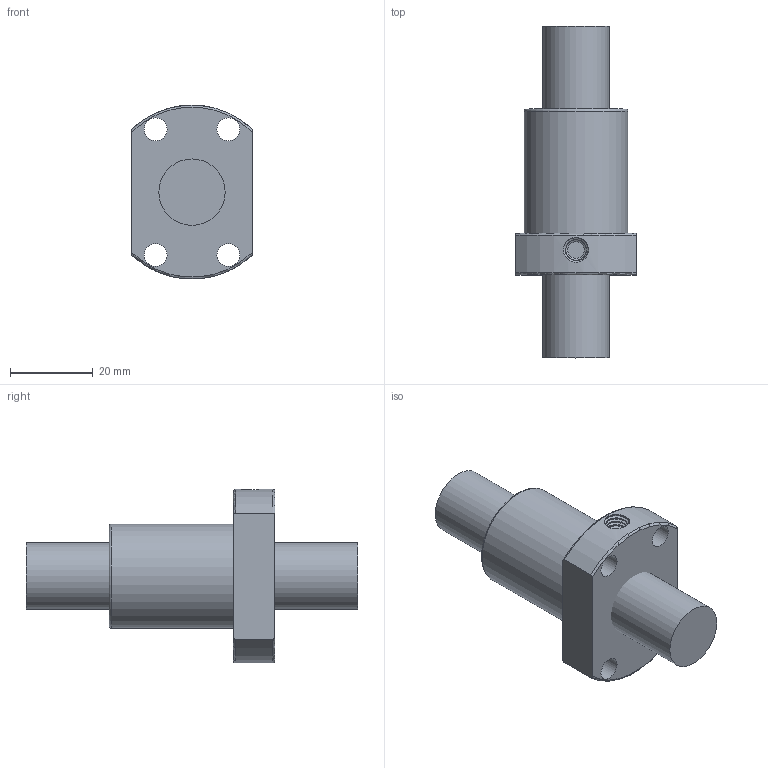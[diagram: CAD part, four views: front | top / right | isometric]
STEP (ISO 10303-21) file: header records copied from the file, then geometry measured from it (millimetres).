
FILE_DESCRIPTION(/* description */ (''),/* implementation_level */ '2;1');
FILE_NAME(/* name */ 'SFK01602.stp',/* time_stamp */ '2022-12-14T13:42:27+08:00',/* author */ (''),/* organization */ (''),/* preprocessor_version */ 'ST-DEVELOPER v16.7',/* originating_system */ 'SIEMENS PLM Software NX 1892',/* authorisation */ '');
FILE_SCHEMA (('AUTOMOTIVE_DESIGN { 1 0 10303 214 3 1 1 1 }'));
Length unit declared in the file: millimetre
Products named in the file (1): 031623C0FC89uvcx
Bounding box: 29 x 80 x 41.92 mm (x, y, z)
Volume: 40725.1 mm3; surface area: 10970.8 mm2
Topology: 2 solids, 2 shells, 30 faces, 74 edges, 50 vertices
Faces by surface type: cylinder 11, plane 9, torus 5, bspline 4, cone 1
Full cylindrical faces by diameter (mm): 4 x1, 5.5 x4, 16 x1, 25 x1
Entity records: 3077 total; most frequent: CARTESIAN_POINT 2414, ORIENTED_EDGE 120, DIRECTION 113, EDGE_CURVE 60, AXIS2_PLACEMENT_3D 51, EDGE_LOOP 49, VERTEX_POINT 45, FACE_BOUND 31
